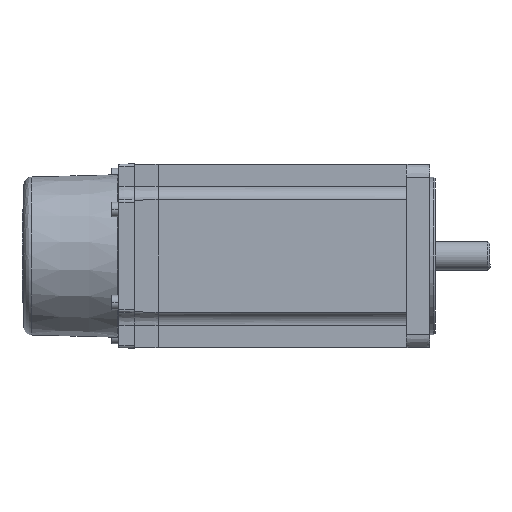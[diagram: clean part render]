
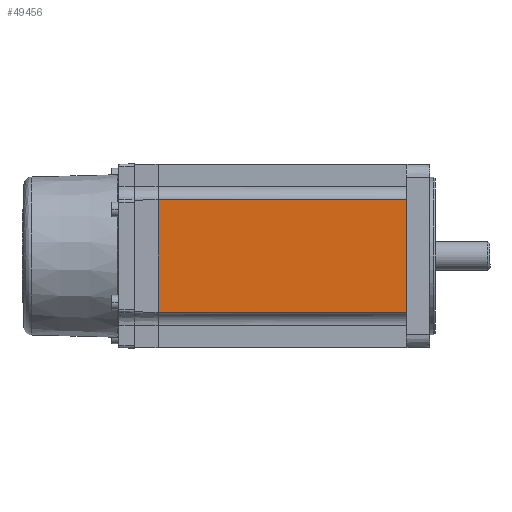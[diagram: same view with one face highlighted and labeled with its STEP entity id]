
A CAD part, front view. The second image highlights one B-rep face of the part: STEP entity #49456.
In plain terms, the highlighted planar face has unit normal (0, -1, 0) as drawn and (0, 1, 0) by its records, which use the part's own axes.
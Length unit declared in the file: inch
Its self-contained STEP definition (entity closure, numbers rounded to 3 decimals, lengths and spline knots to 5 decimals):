
#395 = CARTESIAN_POINT ( 'NONE',  ( 0.84711, 1.37795, 2.46457 ) ) ;
#6411 = CARTESIAN_POINT ( 'NONE',  ( -1.37795, 1.37795, 2.46457 ) ) ;
#9797 = ORIENTED_EDGE ( 'NONE', *, *, #98517, .F. ) ;
#15605 = CARTESIAN_POINT ( 'NONE',  ( -1.37795, 1.37795, -1.25984 ) ) ;
#16474 = CARTESIAN_POINT ( 'NONE',  ( 0.84711, 1.37795, -1.25984 ) ) ;
#18707 = EDGE_CURVE ( 'NONE', #48711, #79322, #139855, .T. ) ;
#20048 = LINE ( 'NONE', #15605, #118310 ) ;
#22468 = DIRECTION ( 'NONE',  ( 0., 0., -1. ) ) ;
#29275 = DIRECTION ( 'NONE',  ( 0., 0., 1. ) ) ;
#30057 = LINE ( 'NONE', #60543, #90164 ) ;
#32428 = EDGE_LOOP ( 'NONE', ( #9797, #71447, #97210, #164935 ) ) ;
#48711 = VERTEX_POINT ( 'NONE', #95155 ) ;
#49456 = ADVANCED_FACE ( 'NONE', ( #110630 ), #132397, .T. ) ;
#55647 = CARTESIAN_POINT ( 'NONE',  ( -1.37795, 1.37795, 2.46457 ) ) ;
#57961 = DIRECTION ( 'NONE',  ( 1., 0., 0. ) ) ;
#60543 = CARTESIAN_POINT ( 'NONE',  ( -0.84711, 1.37795, 4.6063 ) ) ;
#68542 = DIRECTION ( 'NONE',  ( 0., 0., 1. ) ) ;
#71088 = EDGE_CURVE ( 'NONE', #48711, #135450, #30057, .T. ) ;
#71447 = ORIENTED_EDGE ( 'NONE', *, *, #106295, .F. ) ;
#79322 = VERTEX_POINT ( 'NONE', #395 ) ;
#90164 = VECTOR ( 'NONE', #22468, 39.37008 ) ;
#93746 = DIRECTION ( 'NONE',  ( 0., 1., 0. ) ) ;
#95155 = CARTESIAN_POINT ( 'NONE',  ( -0.84711, 1.37795, 2.46457 ) ) ;
#97210 = ORIENTED_EDGE ( 'NONE', *, *, #71088, .F. ) ;
#98517 = EDGE_CURVE ( 'NONE', #133679, #79322, #159810, .T. ) ;
#101766 = VECTOR ( 'NONE', #57961, 39.37008 ) ;
#106295 = EDGE_CURVE ( 'NONE', #135450, #133679, #20048, .T. ) ;
#110630 = FACE_OUTER_BOUND ( 'NONE', #32428, .T. ) ;
#118180 = DIRECTION ( 'NONE',  ( 1., 0., 0. ) ) ;
#118310 = VECTOR ( 'NONE', #118180, 39.37008 ) ;
#118538 = AXIS2_PLACEMENT_3D ( 'NONE', #55647, #93746, #68542 ) ;
#129779 = VECTOR ( 'NONE', #29275, 39.37008 ) ;
#132397 = PLANE ( 'NONE',  #118538 ) ;
#133679 = VERTEX_POINT ( 'NONE', #16474 ) ;
#135450 = VERTEX_POINT ( 'NONE', #159014 ) ;
#139855 = LINE ( 'NONE', #6411, #101766 ) ;
#154782 = CARTESIAN_POINT ( 'NONE',  ( 0.84711, 1.37795, -1.25984 ) ) ;
#159014 = CARTESIAN_POINT ( 'NONE',  ( -0.84711, 1.37795, -1.25984 ) ) ;
#159810 = LINE ( 'NONE', #154782, #129779 ) ;
#164935 = ORIENTED_EDGE ( 'NONE', *, *, #18707, .T. ) ;
